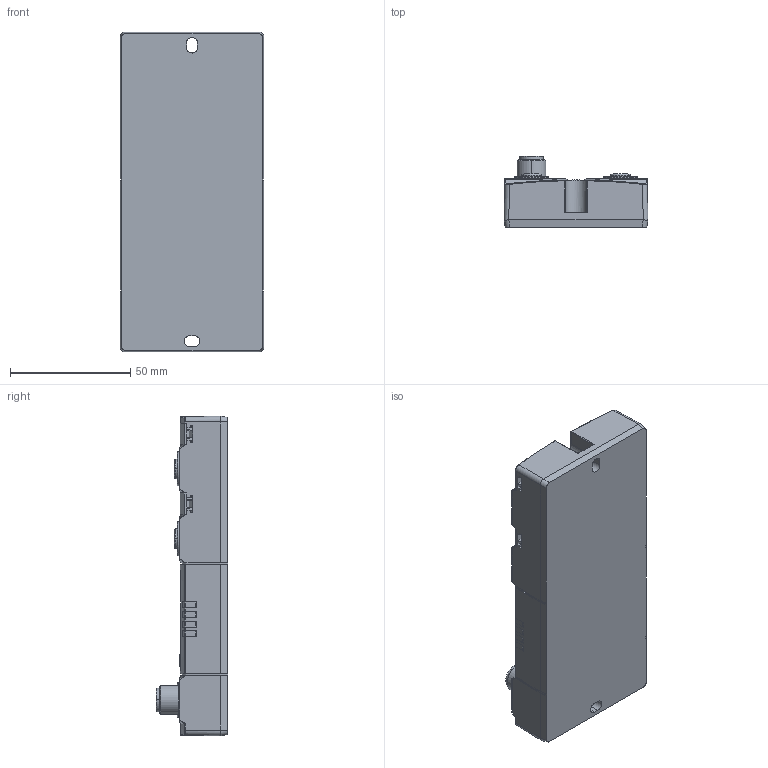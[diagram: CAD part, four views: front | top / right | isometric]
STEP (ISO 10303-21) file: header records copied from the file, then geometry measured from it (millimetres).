
FILE_DESCRIPTION((''),'2;1');
FILE_NAME('2017653','2015-05-19T',('LWegerer'),(''),'PRO/ENGINEER BY PARAMETRIC TECHNOLOGY CORPORATION, 2014430','PRO/ENGINEER BY PARAMETRIC TECHNOLOGY CORPORATION, 2014430','');
FILE_SCHEMA(('AUTOMOTIVE_DESIGN { 1 0 10303 214 1 1 1 1 }'));
Products named in the file (1): 2017653
Bounding box: 59.83 x 29.6 x 132.83 mm (x, y, z)
Volume: 148070.7 mm3; surface area: 37721.1 mm2
Topology: 5 solids, 5 shells, 2616 faces, 8519 edges, 5424 vertices
Faces by surface type: plane 1602, cylinder 589, cone 200, bspline 118, torus 97, extrusion 6, sphere 4
Entity records: 161716 total; most frequent: CARTESIAN_POINT 35316, ORIENTED_EDGE 16730, DIRECTION 12103, PRESENTATION_STYLE_ASSIGNMENT 10971, STYLED_ITEM 8380, CURVE_STYLE 8375, EDGE_CURVE 8365, VERTEX_POINT 5422
